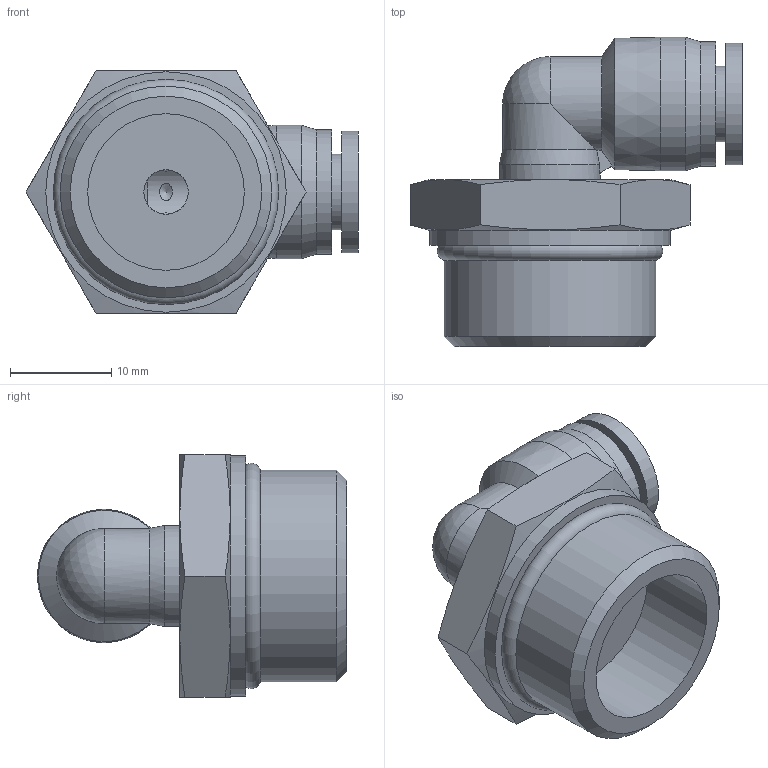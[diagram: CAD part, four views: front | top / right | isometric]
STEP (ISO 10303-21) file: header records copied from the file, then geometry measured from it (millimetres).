
FILE_DESCRIPTION(/* description */ (''),/* implementation_level */ '2;1');
FILE_NAME(/* name */ 'S:\_Tecnico\ArchivioUT\_Disegni3D ingombri\DISEGNI 3D per ingombri\RP\RP 72\RP721206.stp',/* time_stamp */ '2019-08-06T17:12:12+02:00',/* author */ ('ufficiotecnico3'),/* organization */ (''),/* preprocessor_version */ 'ST-DEVELOPER v18',/* originating_system */ 'Autodesk Inventor 2020',/* authorisation */ '');
FILE_SCHEMA (('AUTOMOTIVE_DESIGN { 1 0 10303 214 3 1 1 }'));
Length unit declared in the file: millimetre
Products named in the file (1): RP721206
Bounding box: 32.86 x 30.6 x 24 mm (x, y, z)
Volume: 6776.2 mm3; surface area: 4477.4 mm2
Topology: 1 solids, 2 shells, 56 faces, 141 edges, 94 vertices
Faces by surface type: plane 19, cone 17, cylinder 16, torus 3, sphere 1
Full cylindrical faces by diameter (mm): 4.4 x1, 6 x1, 7.5 x1, 10 x1, 12 x1, 12.3 x1, 13.2 x1, 15.5 x1, 18.5 x2, 20.955 x1, 23.8 x1
Entity records: 1845 total; most frequent: CARTESIAN_POINT 460, DIRECTION 290, ORIENTED_EDGE 278, EDGE_CURVE 139, AXIS2_PLACEMENT_3D 129, VERTEX_POINT 94, EDGE_LOOP 69, CIRCLE 69
